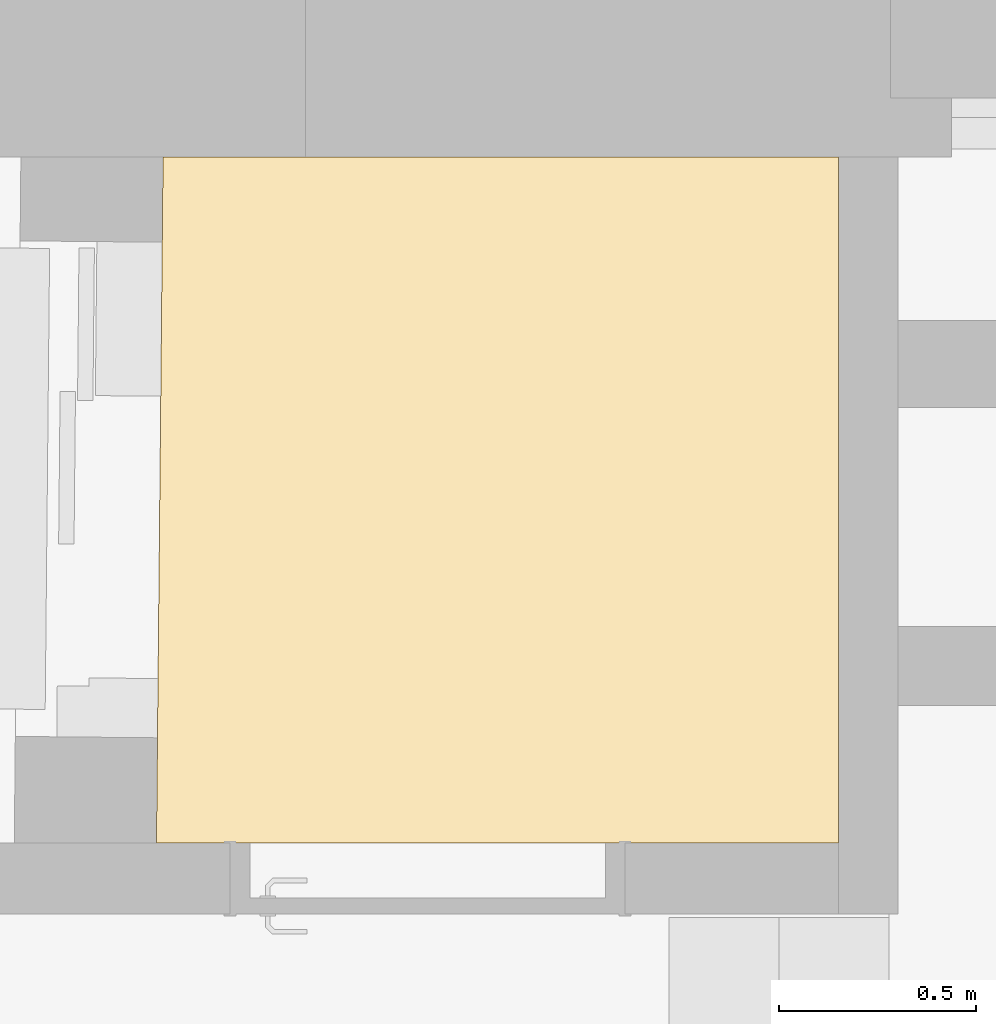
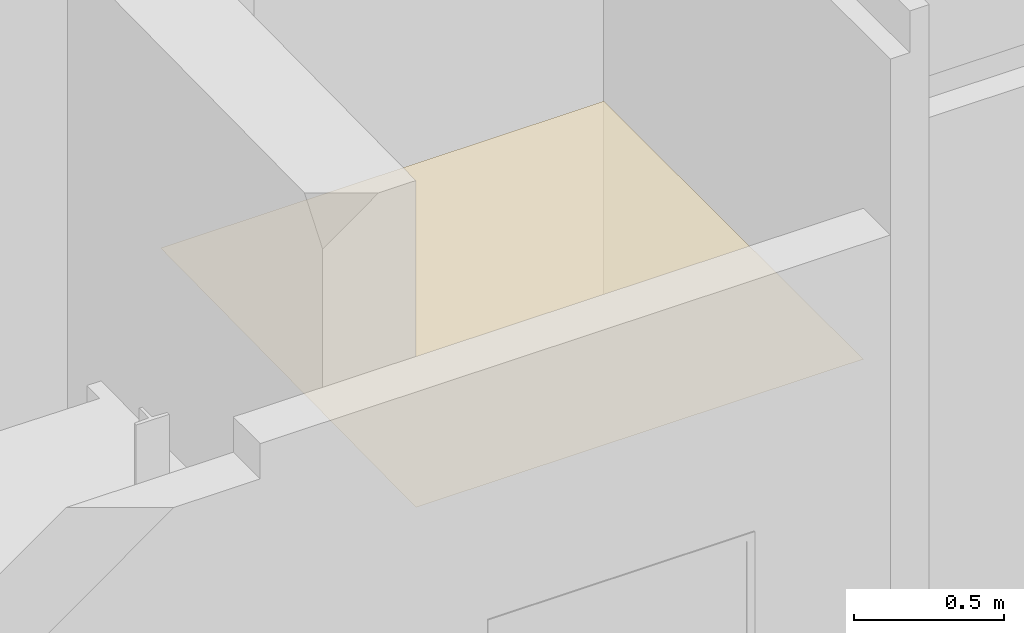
# One storey, part 37 of 39: 1 covering.
"""IFC4 building model written with IfcOpenShell, lengths in metres."""

import ifcopenshell
import ifcopenshell.guid

model = None  # the IFC model being written
_history = None  # IfcOwnerHistory: only IFC2X3 demands one
_inside = {}  # id of a spatial element -> (the spatial element, [elements in it])
_under = {}  # id of a project, library or spatial element -> (it, [spatial elements below it])
_declared = {}  # id of a project -> (the project, [libraries it declares])
_typed = {}  # id of a type object -> (the type object, [elements of that type])
_made_of = {}  # id of a material, layer set ... -> (it, [elements and type objects made of it])


def new_model(schema):
    """Start an empty IFC model of exactly this schema.

    Asked for "IFC4X3", IfcOpenShell would pick the latest addendum, in which some entities
    have other attributes; the version numbers below select the first issue.
    IFC2X3 requires an IfcOwnerHistory on every rooted entity: one is made here for all.
    """
    global model, _history
    if schema == "IFC4X3":
        model = ifcopenshell.file(schema_version=(4, 3, 0, 0))
    else:
        model = ifcopenshell.file(schema=schema)
    _inside.clear()
    _under.clear()
    _declared.clear()
    _typed.clear()
    _made_of.clear()
    _history = None
    if model.schema == "IFC2X3":
        org = make("IfcOrganization", Name="unknown")
        user = make(
            "IfcPersonAndOrganization",
            ThePerson=make("IfcPerson", FamilyName="unknown"),
            TheOrganization=org,
        )
        app = make(
            "IfcApplication",
            ApplicationDeveloper=org,
            Version="unknown",
            ApplicationFullName="unknown",
            ApplicationIdentifier="unknown",
        )
        _history = make(
            "IfcOwnerHistory",
            OwningUser=user,
            OwningApplication=app,
            ChangeAction="ADDED",
            CreationDate=0,
        )
    return model


def make(cls, **values):
    """One entity of the class cls with the attributes given. An attribute that is None is left unset."""
    return model.create_entity(
        cls, **{name: value for name, value in values.items() if value is not None}
    )


def entity(cls, *values):
    """Any entity or typed value of the class cls, its attributes in the order of the schema. None: left unset."""
    e = model.create_entity(cls)
    for i, value in enumerate(values):
        if value is not None:
            e[i] = value
    return e


def rooted(cls, **values):
    """An entity with a GlobalId (a new one), such as an element, a storey or a relation."""
    return make(cls, GlobalId=ifcopenshell.guid.new(), OwnerHistory=_history, **values)


def si_unit(unit_type, name, prefix=None):
    """IfcSIUnit, for example si_unit("LENGTHUNIT", "METRE", prefix="MILLI")."""
    return make("IfcSIUnit", UnitType=unit_type, Prefix=prefix, Name=name)


def converted_unit(unit_type, name, factor, base, dimensions=None, offset=None):
    """IfcConversionBasedUnit, such as the inch: factor (a typed value) times the base unit."""
    return make(
        "IfcConversionBasedUnit"
        if offset is None
        else "IfcConversionBasedUnitWithOffset",
        ConversionOffset=offset,
        Dimensions=None
        if dimensions is None
        else entity("IfcDimensionalExponents", *dimensions),
        UnitType=unit_type,
        Name=name,
        ConversionFactor=make(
            "IfcMeasureWithUnit", ValueComponent=factor, UnitComponent=base
        ),
    )


def derived_unit(unit_type, elements):
    """IfcDerivedUnit: a product of units, each with its exponent."""
    return make(
        "IfcDerivedUnit",
        Elements=[
            make("IfcDerivedUnitElement", Unit=unit, Exponent=power)
            for unit, power in elements
        ],
        UnitType=unit_type,
    )


def assignment(units):
    """IfcUnitAssignment: the units of a project."""
    return None if units is None else make("IfcUnitAssignment", Units=units)


def point(xyz):
    """IfcCartesianPoint."""
    return None if xyz is None else make("IfcCartesianPoint", Coordinates=xyz)


def direction(xyz):
    """IfcDirection."""
    return None if xyz is None else make("IfcDirection", DirectionRatios=xyz)


def frame(location, z_axis=None, x_axis=None):
    """IfcAxis2Placement3D, a coordinate frame: its origin and axes. An axis left out is left unset."""
    return make(
        "IfcAxis2Placement3D",
        Location=point(location),
        Axis=direction(z_axis),
        RefDirection=direction(x_axis),
    )


def origin():
    """The frame at (0, 0, 0) with its axes left unset."""
    return frame((0.0, 0.0, 0.0))


def place(relative_to, where):
    """IfcLocalPlacement: puts the frame where relative to a parent placement (None: the world)."""
    return make(
        "IfcLocalPlacement", PlacementRelTo=relative_to, RelativePlacement=where
    )


def context(
    kind, dimensions, precision=None, world=None, true_north=None, identifier=None
):
    """IfcGeometricRepresentationContext, for example the 3D "Model" context."""
    return make(
        "IfcGeometricRepresentationContext",
        ContextIdentifier=identifier,
        ContextType=kind,
        CoordinateSpaceDimension=dimensions,
        Precision=precision,
        WorldCoordinateSystem=world,
        TrueNorth=true_north,
    )


def subcontext(parent, identifier, kind, view, scale=None):
    """IfcGeometricRepresentationSubContext, for example "Body" below "Model"."""
    return make(
        "IfcGeometricRepresentationSubContext",
        ContextIdentifier=identifier,
        ContextType=kind,
        ParentContext=parent,
        TargetScale=scale,
        TargetView=view,
    )


def project(units=None, contexts=None):
    """IfcProject with its units and contexts."""
    return rooted(
        "IfcProject",
        Name="project",
        RepresentationContexts=contexts,
        UnitsInContext=assignment(units),
    )


def spatial(cls, under=None, at=None, **own):
    """A site, building, storey or space (cls), placed at a placement, below another one or the project."""
    s = rooted(cls, ObjectPlacement=at, **own)
    if under is not None:
        _under.setdefault(under.id(), (under, []))[1].append(s)
    return s


def point_list(points):
    """IfcCartesianPointList2D or 3D."""
    cls = (
        "IfcCartesianPointList2D" if len(points[0]) == 2 else "IfcCartesianPointList3D"
    )
    return make(cls, CoordList=points)


def polygons(points, faces, closed=None, point_numbers=None):
    """IfcPolygonalFaceSet: a face is its outer loop, then its inner loops; points numbered from 1."""
    made = []
    for loops in faces:
        if len(loops) == 1:
            made.append(make("IfcIndexedPolygonalFace", CoordIndex=loops[0]))
        else:
            made.append(
                make(
                    "IfcIndexedPolygonalFaceWithVoids",
                    CoordIndex=loops[0],
                    InnerCoordIndices=loops[1:],
                )
            )
    return make(
        "IfcPolygonalFaceSet",
        Coordinates=point_list(points),
        Closed=closed,
        Faces=made,
        PnIndex=point_numbers,
    )


def shape(context_of_items, identifier, shape_type, items):
    """IfcShapeRepresentation: the items that make up one representation, for example the "Body"."""
    return make(
        "IfcShapeRepresentation",
        ContextOfItems=context_of_items,
        RepresentationIdentifier=identifier,
        RepresentationType=shape_type,
        Items=items,
    )


def material(Name=None, Category=None):
    """IfcMaterial."""
    return make("IfcMaterial", Name=Name, Category=Category)


def layer(
    of_material, thickness, ventilated=None, Name=None, Category=None, Priority=None
):
    """IfcMaterialLayer: one layer of a wall or slab, of a material (None: an air gap)."""
    return make(
        "IfcMaterialLayer",
        Material=of_material,
        LayerThickness=thickness,
        IsVentilated=ventilated,
        Name=Name,
        Category=Category,
        Priority=Priority,
    )


def layer_set(layers, Name=None):
    """IfcMaterialLayerSet."""
    return make("IfcMaterialLayerSet", MaterialLayers=layers, LayerSetName=Name)


def made_of(thing, what):
    """Note that an element or type object is made of a material, layer set ...; save() writes the relation."""
    if what is not None:
        _made_of.setdefault(what.id(), (what, []))[1].append(thing)
    return thing


def type_object(cls, material=None, **own):
    """A type object (cls), such as IfcWallType, which elements share."""
    return made_of(rooted(cls, **own), material)


def element(
    cls,
    number,
    at=None,
    inside=None,
    cuts=None,
    type_object=None,
    material=None,
    context=None,
    identifier="Body",
    shape_type=None,
    held_by="IfcProductDefinitionShape",
    body=None,
    shapes=None,
    **own,
):
    """One element of the class cls, such as IfcWall. Its Tag is "e" and its number.

    at: its placement. inside: the storey or other place that contains it. cuts: it is an
    opening in that element (IfcRelVoidsElement). A single representation is given by context,
    identifier, shape_type and body (its items); several are given by shapes. held_by: the class
    of the entity that holds the representations. save() writes the other relations.
    """
    e = rooted(cls, Tag="e%d" % number, ObjectPlacement=at, **own)
    if body is not None:
        shapes = [shape(context, identifier, shape_type, body)]
    if shapes is not None:
        e.Representation = make(held_by, Representations=shapes)
    if inside is not None:
        _inside.setdefault(inside.id(), (inside, []))[1].append(e)
    if cuts is not None:
        rooted(
            "IfcRelVoidsElement", RelatingBuildingElement=cuts, RelatedOpeningElement=e
        )
    if type_object is not None:
        _typed.setdefault(type_object.id(), (type_object, []))[1].append(e)
    return made_of(e, material)


def aggregate(whole, parts):
    """IfcRelAggregates: a whole, such as a stair, and the parts it consists of."""
    return rooted("IfcRelAggregates", RelatingObject=whole, RelatedObjects=parts)


def save(model, path):
    """Write the relations noted so far, then the file.

    IfcRelAggregates (storeys below a building ...), IfcRelContainedInSpatialStructure (elements
    in a storey), IfcRelDefinesByType, IfcRelAssociatesMaterial and IfcRelDeclares: one each for
    every whole, place, type object, material and project.
    """
    for whole, parts in _under.values():
        aggregate(whole, parts)
    for where, things in _inside.values():
        rooted(
            "IfcRelContainedInSpatialStructure",
            RelatedElements=things,
            RelatingStructure=where,
        )
    for kind, things in _typed.values():
        rooted("IfcRelDefinesByType", RelatedObjects=things, RelatingType=kind)
    for what, things in _made_of.values():
        rooted("IfcRelAssociatesMaterial", RelatedObjects=things, RelatingMaterial=what)
    for by, libraries in _declared.values():
        rooted("IfcRelDeclares", RelatingContext=by, RelatedDefinitions=libraries)
    model.write(path)


model = new_model("IFC4")

# Units and contexts
model_context = context("Model", 3, precision=1e-05, world=origin(), true_north=direction((6.12303176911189e-17, 1.0)))
body_context = subcontext(model_context, "Body", "Model", "MODEL_VIEW")
ifc_project = project(units=[si_unit("LENGTHUNIT", "METRE"), si_unit("AREAUNIT", "SQUARE_METRE"), si_unit("VOLUMEUNIT", "CUBIC_METRE"), converted_unit("PLANEANGLEUNIT", "DEGREE", entity("IfcRatioMeasure", 0.0174532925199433), si_unit("PLANEANGLEUNIT", "RADIAN"), dimensions=[0, 0, 0, 0, 0, 0, 0]), si_unit("MASSUNIT", "GRAM", prefix="KILO"), derived_unit("MASSDENSITYUNIT", [(si_unit("MASSUNIT", "GRAM", prefix="KILO"), 1), (si_unit("LENGTHUNIT", "METRE"), -3)]), derived_unit("MOMENTOFINERTIAUNIT", [(si_unit("LENGTHUNIT", "METRE"), 4)]), si_unit("TIMEUNIT", "SECOND"), si_unit("FREQUENCYUNIT", "HERTZ"), si_unit("THERMODYNAMICTEMPERATUREUNIT", "DEGREE_CELSIUS"), derived_unit("THERMALTRANSMITTANCEUNIT", [(si_unit("MASSUNIT", "GRAM", prefix="KILO"), 1), (si_unit("THERMODYNAMICTEMPERATUREUNIT", "KELVIN"), -1), (si_unit("TIMEUNIT", "SECOND"), -3)]), derived_unit("VOLUMETRICFLOWRATEUNIT", [(si_unit("LENGTHUNIT", "METRE"), 3), (si_unit("TIMEUNIT", "SECOND"), -1)]), si_unit("ELECTRICCURRENTUNIT", "AMPERE"), si_unit("ELECTRICVOLTAGEUNIT", "VOLT"), si_unit("POWERUNIT", "WATT"), si_unit("FORCEUNIT", "NEWTON", prefix="KILO"), si_unit("ILLUMINANCEUNIT", "LUX"), si_unit("LUMINOUSFLUXUNIT", "LUMEN"), si_unit("LUMINOUSINTENSITYUNIT", "CANDELA"), derived_unit("USERDEFINED", [(si_unit("MASSUNIT", "GRAM", prefix="KILO"), -1), (si_unit("LENGTHUNIT", "METRE"), -2), (si_unit("TIMEUNIT", "SECOND"), 3), (si_unit("LUMINOUSFLUXUNIT", "LUMEN"), 1)]), derived_unit("LINEARVELOCITYUNIT", [(si_unit("LENGTHUNIT", "METRE"), 1), (si_unit("TIMEUNIT", "SECOND"), -1)]), si_unit("PRESSUREUNIT", "PASCAL"), derived_unit("USERDEFINED", [(si_unit("LENGTHUNIT", "METRE"), -2), (si_unit("MASSUNIT", "GRAM", prefix="KILO"), 1), (si_unit("TIMEUNIT", "SECOND"), -2)]), derived_unit("LINEARFORCEUNIT", [(si_unit("MASSUNIT", "GRAM", prefix="KILO"), 1), (si_unit("LENGTHUNIT", "METRE"), 1), (si_unit("TIMEUNIT", "SECOND"), -2), (si_unit("LENGTHUNIT", "METRE"), -1)]), derived_unit("PLANARFORCEUNIT", [(si_unit("MASSUNIT", "GRAM", prefix="KILO"), 1), (si_unit("LENGTHUNIT", "METRE"), 1), (si_unit("TIMEUNIT", "SECOND"), -2), (si_unit("LENGTHUNIT", "METRE"), -2)])], contexts=[model_context])

# Site, building, storey
site_placement = place(None, origin())
site = spatial("IfcSite", under=ifc_project, at=site_placement, Name="Default", CompositionType="ELEMENT")
building_placement = place(site_placement, origin())
building = spatial("IfcBuilding", under=site, at=building_placement, Name="HOTEL CONSULAIRE BOULOGNE SUR MER", CompositionType="ELEMENT")
storey_placement = place(building_placement, frame((0.0, 0.0, -5.02343668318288)))
storey = spatial("IfcBuildingStorey", under=building, at=storey_placement, Name="SS3", CompositionType="ELEMENT", Elevation=-5.02343668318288)

# Covering
ifc_material = material(Name="Faux-plafond - Trame 600 x 600", Category="Divers")
ifc_layer = layer(ifc_material, 0.0, Name="Faux-plafond - Trame 600 x 600", Category="Divers")
ifc_layer_set = layer_set([ifc_layer], Name="Plafond de base:Plafond 600 mm x 1200 mm")
covering_type = type_object("IfcCoveringType", Name="Plafond de base:Plafond 600 mm x 1200 mm", PredefinedType="CEILING")
covering_placement = place(storey_placement, frame((9.44795580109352, -11.9707913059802, 1.84763678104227)))
element("IfcCovering", 1, at=covering_placement, inside=storey, type_object=covering_type, material=ifc_layer_set, Name="Plafond de base:Plafond 600 mm x 1200 mm", ObjectType="Plafond de base:Plafond 600 mm x 1200 mm", PredefinedType="CEILING", context=body_context, shape_type="Tessellation", body=[
    polygons([(0.0167104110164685, 1.73646714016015, 0.0), (-1.08286712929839e-15, 6.49720277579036e-15, 0.0), (1.72768788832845, 0.0, 0.0), (1.72768788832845, 1.73646714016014, 0.0), (0.377468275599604, 1.73646714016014, 0.0)], [[[1, 2, 3, 4, 5]]], closed=True),
])

save(model, "model.ifc")
